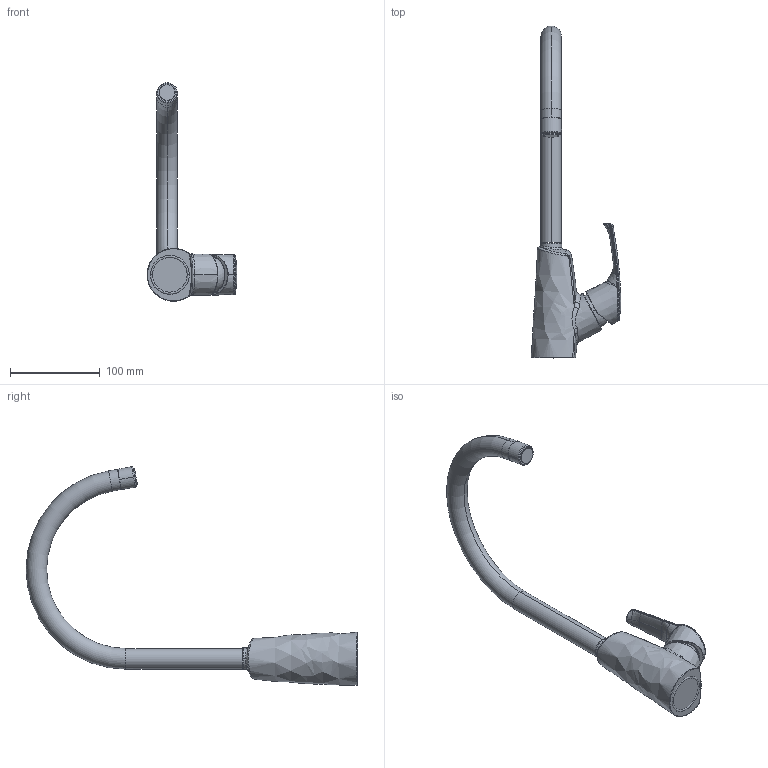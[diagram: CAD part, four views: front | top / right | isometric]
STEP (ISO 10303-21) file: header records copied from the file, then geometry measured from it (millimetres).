
FILE_DESCRIPTION((''),'2;1');
FILE_NAME('67070--','2026-10-14T11:35:33',('simi1'),(''),'CREO PARAMETRIC BY PTC INC, 2022244','CREO PARAMETRIC BY PTC INC, 2022244','');
FILE_SCHEMA(('CONFIG_CONTROL_DESIGN'));
Length unit declared in the file: millimetre
Products named in the file (1): 67070--
Bounding box: 100.39 x 370.45 x 243.95 mm (x, y, z)
Surface area: 79385.6 mm2 (no closed solid volume)
Topology: 0 solids, 35 shells, 329 faces, 1235 edges, 910 vertices
Faces by surface type: bspline 211, cylinder 44, plane 34, torus 25, cone 11, sphere 4
Entity records: 29405 total; most frequent: CARTESIAN_POINT 21498, ORIENTED_EDGE 1816, EDGE_CURVE 1235, DIRECTION 946, VERTEX_POINT 910, B_SPLINE_CURVE_WITH_KNOTS 818, AXIS2_PLACEMENT_3D 411, EDGE_LOOP 329
